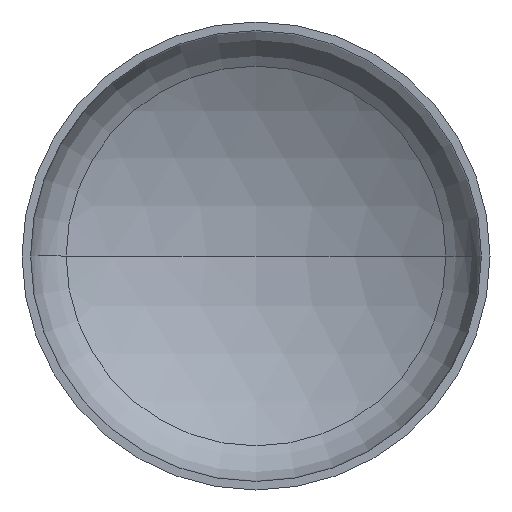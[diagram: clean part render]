
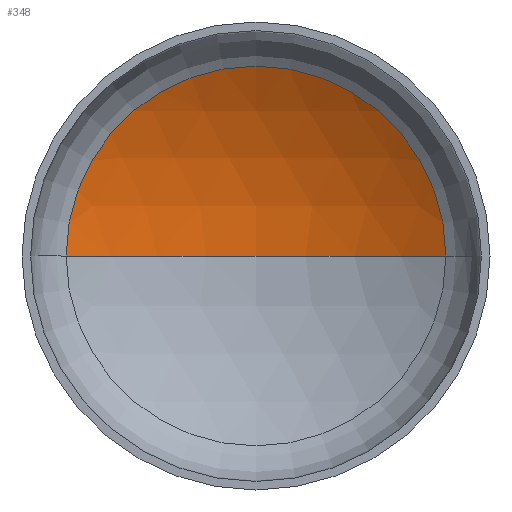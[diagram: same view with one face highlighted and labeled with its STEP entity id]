
A CAD part, front view. The second image highlights one B-rep face of the part: STEP entity #348.
In plain terms, the highlighted spherical face has radius 2880 mm.
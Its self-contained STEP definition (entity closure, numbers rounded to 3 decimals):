
#20 = AXIS2_PLACEMENT_3D ( 'NONE', #285, #362, #29 ) ;
#21 = AXIS2_PLACEMENT_3D ( 'NONE', #192, #199, #367 ) ;
#23 = AXIS2_PLACEMENT_3D ( 'NONE', #207, #201, #205 ) ;
#27 = VERTEX_POINT ( 'NONE', #247 ) ;
#28 = VERTEX_POINT ( 'NONE', #244 ) ;
#29 = DIRECTION ( 'NONE',  ( 1., 0., 0. ) ) ;
#44 = EDGE_LOOP ( 'NONE', ( #113, #102, #63 ) ) ;
#63 = ORIENTED_EDGE ( 'NONE', *, *, #66, .T. ) ;
#66 = EDGE_CURVE ( 'NONE', #28, #151, #269, .T. ) ;
#68 = EDGE_CURVE ( 'NONE', #27, #28, #218, .T. ) ;
#69 = EDGE_CURVE ( 'NONE', #27, #151, #109, .T. ) ;
#102 = ORIENTED_EDGE ( 'NONE', *, *, #68, .T. ) ;
#109 = CIRCLE ( 'NONE', #20, 2880. ) ;
#113 = ORIENTED_EDGE ( 'NONE', *, *, #69, .F. ) ;
#151 = VERTEX_POINT ( 'NONE', #249 ) ;
#168 = DIRECTION ( 'NONE',  ( 0., 0., -1. ) ) ;
#192 = CARTESIAN_POINT ( 'NONE',  ( 0., -1883.892, 0. ) ) ;
#197 = CARTESIAN_POINT ( 'NONE',  ( 0., -1883.892, 0. ) ) ;
#199 = DIRECTION ( 'NONE',  ( 0., 0., -1. ) ) ;
#201 = DIRECTION ( 'NONE',  ( 0., -1., 0. ) ) ;
#205 = DIRECTION ( 'NONE',  ( 1., 0., 0. ) ) ;
#207 = CARTESIAN_POINT ( 'NONE',  ( 0., 598.348, 0. ) ) ;
#218 = CIRCLE ( 'NONE', #21, 2880. ) ;
#227 = SPHERICAL_SURFACE ( 'NONE', #347, 2880. ) ;
#237 = FACE_OUTER_BOUND ( 'NONE', #44, .T. ) ;
#244 = CARTESIAN_POINT ( 'NONE',  ( 1460.439, 598.348, 0. ) ) ;
#247 = CARTESIAN_POINT ( 'NONE',  ( 0., 996.108, 0. ) ) ;
#249 = CARTESIAN_POINT ( 'NONE',  ( -1460.439, 598.348, 0. ) ) ;
#269 = CIRCLE ( 'NONE', #23, 1460.439 ) ;
#285 = CARTESIAN_POINT ( 'NONE',  ( 0., -1883.892, 0. ) ) ;
#337 = DIRECTION ( 'NONE',  ( -1., 0., 0. ) ) ;
#347 = AXIS2_PLACEMENT_3D ( 'NONE', #197, #168, #337 ) ;
#348 = ADVANCED_FACE ( 'NONE', ( #237 ), #227, .F. ) ;
#362 = DIRECTION ( 'NONE',  ( 0., 0., 1. ) ) ;
#367 = DIRECTION ( 'NONE',  ( -1., 0., 0. ) ) ;
